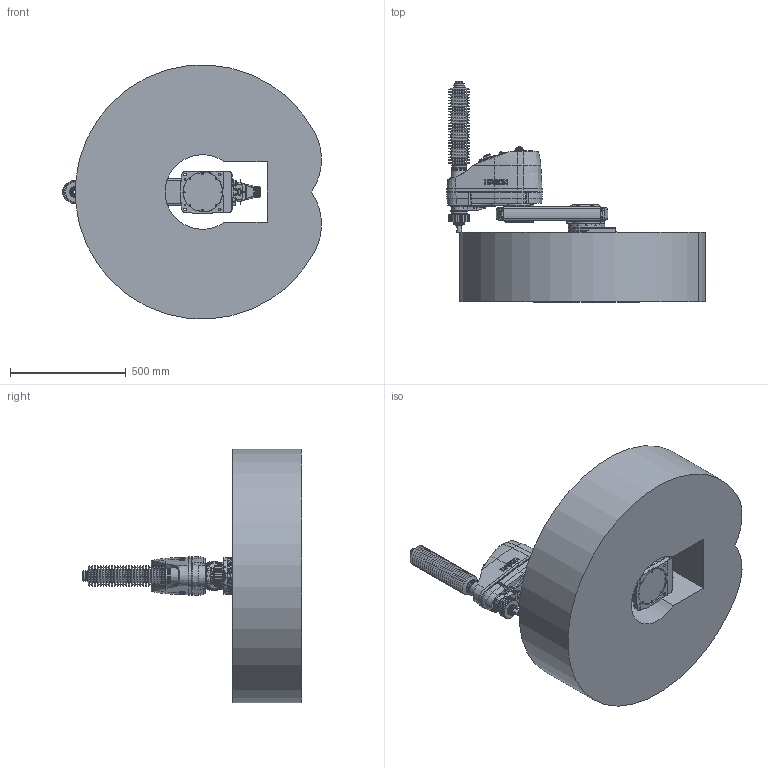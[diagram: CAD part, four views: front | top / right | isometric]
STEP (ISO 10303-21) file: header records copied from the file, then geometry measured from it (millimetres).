
FILE_DESCRIPTION( ( 'STEP AP214' ), '1' );
FILE_NAME( 'C:/Users/9607552/Desktop/GX8-B553C_straight.stp', '2023-07-07T02:30:03', ( '' ), ( '' ), ' ', 'PARTsolutions', ' ' );
FILE_SCHEMA( ( 'AUTOMOTIVE_DESIGN { 1 0 10303 214 1 1 1 1 }' ) );
Length unit declared in the file: millimetre
Products named in the file (11): GX8-B553CS-W; _B452C_BASE; _B552C; _B552C_1; _B552C_2; _B452C_J2; _B453CZA; _2-B-long; _2-B-short; _Straight-B; _GX8-16-1-B_WS
Assembly tree (12 placements, depth 2):
  GX8-B553CS-W
    _B452C_BASE
    _B552C
    _B552C_1  x2
    _B552C_2  x2
    _B452C_J2
    _B453CZA
    _2-B-long
    _2-B-short
    _Straight-B
    _GX8-16-1-B_WS
Bounding box: 1119.76 x 950.5 x 1098.33 mm (x, y, z)
Volume: 269963636.4 mm3; surface area: 4578211.1 mm2
Topology: 12 solids, 16 shells, 3414 faces, 8189 edges, 5266 vertices
Faces by surface type: plane 1602, cylinder 1111, cone 497, torus 162, bspline 37, sphere 5
Full cylindrical faces by diameter (mm): 1 x48, 1.18 x55, 2.261 x4, 2.459 x12, 3 x32, 3.242 x18, 3.3 x4, 3.9 x4, 4.2 x8, 4.5 x12, 4.8 x4, 5.34 x4, 5.5 x17, 6 x5, 6.2 x4, 6.647 x4, 6.8 x2, 7 x48, 8 x5, 8.5 x4, 9 x24, 10 x18, 11 x4, 11.2 x5, 11.5 x1, 12 x5, 12.2 x1, 12.25 x1, 13 x3, 13.2 x12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
Entity records: 120739 total; most frequent: CARTESIAN_POINT 22599, DIRECTION 15036, ORIENTED_EDGE 13440, EDGE_CURVE 6720, AXIS2_PLACEMENT_3D 5939, VERTEX_POINT 4879, EDGE_LOOP 4661, FACE_OUTER_BOUND 3854
